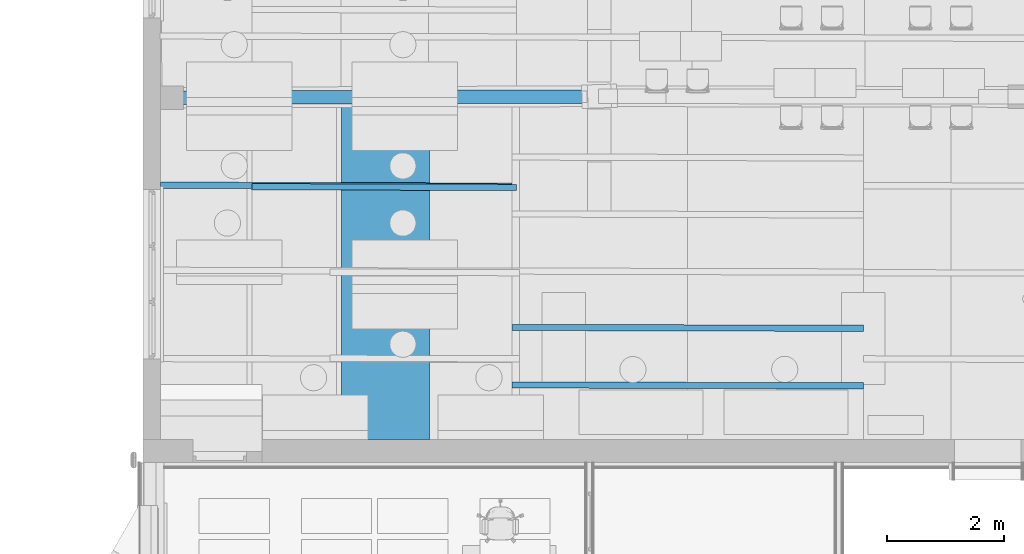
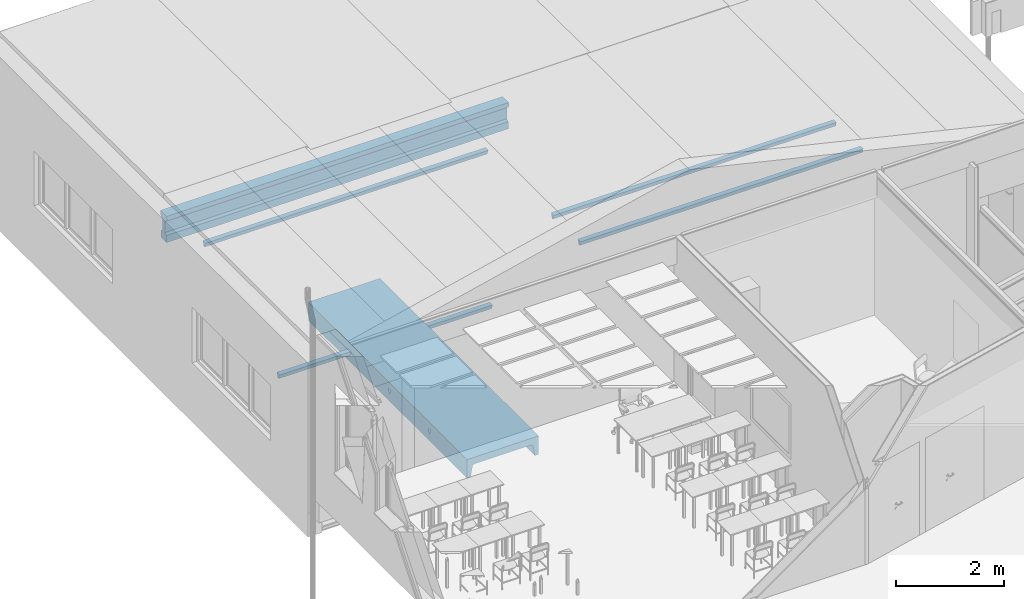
# One storey, part 16 of 153: 6 beams.
"""IFC2X3 building model written with IfcOpenShell, lengths in millimetres."""

import ifcopenshell
import ifcopenshell.guid

model = None  # the IFC model being written
_history = None  # IfcOwnerHistory: only IFC2X3 demands one
_inside = {}  # id of a spatial element -> (the spatial element, [elements in it])
_under = {}  # id of a project, library or spatial element -> (it, [spatial elements below it])
_declared = {}  # id of a project -> (the project, [libraries it declares])
_typed = {}  # id of a type object -> (the type object, [elements of that type])
_made_of = {}  # id of a material, layer set ... -> (it, [elements and type objects made of it])


def new_model(schema):
    """Start an empty IFC model of exactly this schema.

    Asked for "IFC4X3", IfcOpenShell would pick the latest addendum, in which some entities
    have other attributes; the version numbers below select the first issue.
    IFC2X3 requires an IfcOwnerHistory on every rooted entity: one is made here for all.
    """
    global model, _history
    if schema == "IFC4X3":
        model = ifcopenshell.file(schema_version=(4, 3, 0, 0))
    else:
        model = ifcopenshell.file(schema=schema)
    _inside.clear()
    _under.clear()
    _declared.clear()
    _typed.clear()
    _made_of.clear()
    _history = None
    if model.schema == "IFC2X3":
        org = make("IfcOrganization", Name="unknown")
        user = make(
            "IfcPersonAndOrganization",
            ThePerson=make("IfcPerson", FamilyName="unknown"),
            TheOrganization=org,
        )
        app = make(
            "IfcApplication",
            ApplicationDeveloper=org,
            Version="unknown",
            ApplicationFullName="unknown",
            ApplicationIdentifier="unknown",
        )
        _history = make(
            "IfcOwnerHistory",
            OwningUser=user,
            OwningApplication=app,
            ChangeAction="ADDED",
            CreationDate=0,
        )
    return model


def make(cls, **values):
    """One entity of the class cls with the attributes given. An attribute that is None is left unset."""
    return model.create_entity(
        cls, **{name: value for name, value in values.items() if value is not None}
    )


def entity(cls, *values):
    """Any entity or typed value of the class cls, its attributes in the order of the schema. None: left unset."""
    e = model.create_entity(cls)
    for i, value in enumerate(values):
        if value is not None:
            e[i] = value
    return e


def rooted(cls, **values):
    """An entity with a GlobalId (a new one), such as an element, a storey or a relation."""
    return make(cls, GlobalId=ifcopenshell.guid.new(), OwnerHistory=_history, **values)


def si_unit(unit_type, name, prefix=None):
    """IfcSIUnit, for example si_unit("LENGTHUNIT", "METRE", prefix="MILLI")."""
    return make("IfcSIUnit", UnitType=unit_type, Prefix=prefix, Name=name)


def converted_unit(unit_type, name, factor, base, dimensions=None, offset=None):
    """IfcConversionBasedUnit, such as the inch: factor (a typed value) times the base unit."""
    return make(
        "IfcConversionBasedUnit"
        if offset is None
        else "IfcConversionBasedUnitWithOffset",
        ConversionOffset=offset,
        Dimensions=None
        if dimensions is None
        else entity("IfcDimensionalExponents", *dimensions),
        UnitType=unit_type,
        Name=name,
        ConversionFactor=make(
            "IfcMeasureWithUnit", ValueComponent=factor, UnitComponent=base
        ),
    )


def derived_unit(unit_type, elements):
    """IfcDerivedUnit: a product of units, each with its exponent."""
    return make(
        "IfcDerivedUnit",
        Elements=[
            make("IfcDerivedUnitElement", Unit=unit, Exponent=power)
            for unit, power in elements
        ],
        UnitType=unit_type,
    )


def money_unit(currency):
    """IfcMonetaryUnit."""
    return make("IfcMonetaryUnit", Currency=currency)


def assignment(units):
    """IfcUnitAssignment: the units of a project."""
    return None if units is None else make("IfcUnitAssignment", Units=units)


def point(xyz):
    """IfcCartesianPoint."""
    return None if xyz is None else make("IfcCartesianPoint", Coordinates=xyz)


def direction(xyz):
    """IfcDirection."""
    return None if xyz is None else make("IfcDirection", DirectionRatios=xyz)


def frame(location, z_axis=None, x_axis=None):
    """IfcAxis2Placement3D, a coordinate frame: its origin and axes. An axis left out is left unset."""
    return make(
        "IfcAxis2Placement3D",
        Location=point(location),
        Axis=direction(z_axis),
        RefDirection=direction(x_axis),
    )


def origin_with_axes():
    """The frame at (0, 0, 0) with the z axis (0, 0, 1) and the x axis (1, 0, 0) written out."""
    return frame((0.0, 0.0, 0.0), z_axis=(0.0, 0.0, 1.0), x_axis=(1.0, 0.0, 0.0))


def place(relative_to, where):
    """IfcLocalPlacement: puts the frame where relative to a parent placement (None: the world)."""
    return make(
        "IfcLocalPlacement", PlacementRelTo=relative_to, RelativePlacement=where
    )


def context(
    kind, dimensions, precision=None, world=None, true_north=None, identifier=None
):
    """IfcGeometricRepresentationContext, for example the 3D "Model" context."""
    return make(
        "IfcGeometricRepresentationContext",
        ContextIdentifier=identifier,
        ContextType=kind,
        CoordinateSpaceDimension=dimensions,
        Precision=precision,
        WorldCoordinateSystem=world,
        TrueNorth=true_north,
    )


def subcontext(parent, identifier, kind, view, scale=None):
    """IfcGeometricRepresentationSubContext, for example "Body" below "Model"."""
    return make(
        "IfcGeometricRepresentationSubContext",
        ContextIdentifier=identifier,
        ContextType=kind,
        ParentContext=parent,
        TargetScale=scale,
        TargetView=view,
    )


def project(units=None, contexts=None):
    """IfcProject with its units and contexts."""
    return rooted(
        "IfcProject",
        Name="project",
        RepresentationContexts=contexts,
        UnitsInContext=assignment(units),
    )


def spatial(cls, under=None, at=None, **own):
    """A site, building, storey or space (cls), placed at a placement, below another one or the project."""
    s = rooted(cls, ObjectPlacement=at, **own)
    if under is not None:
        _under.setdefault(under.id(), (under, []))[1].append(s)
    return s


def faces_of(points, faces, orient=None, outer=None):
    """IfcFace entities. A face is a list of loops; a loop is a list of indices into points, from 0.

    orient and outer hold one flag for each loop. By default every Orientation is true, the
    first loop of a face is its IfcFaceOuterBound and the others are IfcFaceBound.
    """
    made = []
    for i, loops in enumerate(faces):
        bounds = []
        for j, loop in enumerate(loops):
            is_outer = j == 0 if outer is None else outer[i][j]
            bounds.append(
                make(
                    "IfcFaceOuterBound" if is_outer else "IfcFaceBound",
                    Bound=make("IfcPolyLoop", Polygon=[points[k] for k in loop]),
                    Orientation=True if orient is None else orient[i][j],
                )
            )
        made.append(make("IfcFace", Bounds=bounds))
    return made


def faceted_brep(points, faces, orient=None, outer=None, voids=None):
    """IfcFacetedBrep: a solid bounded by flat faces; with voids (closed shells), ...WithVoids."""
    shared = [point(p) for p in points]
    hull = make("IfcClosedShell", CfsFaces=faces_of(shared, faces, orient, outer))
    if voids is None:
        return make("IfcFacetedBrep", Outer=hull)
    return make(
        "IfcFacetedBrepWithVoids",
        Outer=hull,
        Voids=[
            make(cls, CfsFaces=faces_of(shared, fs, o, b)) for cls, fs, o, b in voids
        ],
    )


def shape(context_of_items, identifier, shape_type, items):
    """IfcShapeRepresentation: the items that make up one representation, for example the "Body"."""
    return make(
        "IfcShapeRepresentation",
        ContextOfItems=context_of_items,
        RepresentationIdentifier=identifier,
        RepresentationType=shape_type,
        Items=items,
    )


def material(Name=None, Category=None):
    """IfcMaterial."""
    return make("IfcMaterial", Name=Name, Category=Category)


def made_of(thing, what):
    """Note that an element or type object is made of a material, layer set ...; save() writes the relation."""
    if what is not None:
        _made_of.setdefault(what.id(), (what, []))[1].append(thing)
    return thing


def type_object(cls, material=None, **own):
    """A type object (cls), such as IfcWallType, which elements share."""
    return made_of(rooted(cls, **own), material)


def element(
    cls,
    number,
    at=None,
    inside=None,
    cuts=None,
    type_object=None,
    material=None,
    context=None,
    identifier="Body",
    shape_type=None,
    held_by="IfcProductDefinitionShape",
    body=None,
    shapes=None,
    **own,
):
    """One element of the class cls, such as IfcWall. Its Tag is "e" and its number.

    at: its placement. inside: the storey or other place that contains it. cuts: it is an
    opening in that element (IfcRelVoidsElement). A single representation is given by context,
    identifier, shape_type and body (its items); several are given by shapes. held_by: the class
    of the entity that holds the representations. save() writes the other relations.
    """
    e = rooted(cls, Tag="e%d" % number, ObjectPlacement=at, **own)
    if body is not None:
        shapes = [shape(context, identifier, shape_type, body)]
    if shapes is not None:
        e.Representation = make(held_by, Representations=shapes)
    if inside is not None:
        _inside.setdefault(inside.id(), (inside, []))[1].append(e)
    if cuts is not None:
        rooted(
            "IfcRelVoidsElement", RelatingBuildingElement=cuts, RelatedOpeningElement=e
        )
    if type_object is not None:
        _typed.setdefault(type_object.id(), (type_object, []))[1].append(e)
    return made_of(e, material)


def aggregate(whole, parts):
    """IfcRelAggregates: a whole, such as a stair, and the parts it consists of."""
    return rooted("IfcRelAggregates", RelatingObject=whole, RelatedObjects=parts)


def save(model, path):
    """Write the relations noted so far, then the file.

    IfcRelAggregates (storeys below a building ...), IfcRelContainedInSpatialStructure (elements
    in a storey), IfcRelDefinesByType, IfcRelAssociatesMaterial and IfcRelDeclares: one each for
    every whole, place, type object, material and project.
    """
    for whole, parts in _under.values():
        aggregate(whole, parts)
    for where, things in _inside.values():
        rooted(
            "IfcRelContainedInSpatialStructure",
            RelatedElements=things,
            RelatingStructure=where,
        )
    for kind, things in _typed.values():
        rooted("IfcRelDefinesByType", RelatedObjects=things, RelatingType=kind)
    for what, things in _made_of.values():
        rooted("IfcRelAssociatesMaterial", RelatedObjects=things, RelatingMaterial=what)
    for by, libraries in _declared.values():
        rooted("IfcRelDeclares", RelatingContext=by, RelatedDefinitions=libraries)
    model.write(path)


model = new_model("IFC2X3")

# Units and contexts
model_context = context("Model", 3, precision=0.01, world=origin_with_axes(), true_north=direction((0.0, 1.0)))
body_context = subcontext(model_context, "Body", "Model", "MODEL_VIEW")
ifc_project = project(units=[si_unit("LENGTHUNIT", "METRE", prefix="MILLI"), si_unit("AREAUNIT", "SQUARE_METRE"), si_unit("VOLUMEUNIT", "CUBIC_METRE"), converted_unit("PLANEANGLEUNIT", "DEGREE", entity("IfcPlaneAngleMeasure", 0.0174532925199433), si_unit("PLANEANGLEUNIT", "RADIAN"), dimensions=[0, 0, 0, 0, 0, 0, 0]), money_unit("EUR"), converted_unit("TIMEUNIT", "Year", entity("IfcTimeMeasure", 31557600.0), si_unit("TIMEUNIT", "SECOND"), dimensions=[0, 0, 1, 0, 0, 0, 0]), si_unit("MASSUNIT", "GRAM", prefix="KILO"), si_unit("THERMODYNAMICTEMPERATUREUNIT", "DEGREE_CELSIUS"), si_unit("LUMINOUSINTENSITYUNIT", "LUMEN"), si_unit("ENERGYUNIT", "JOULE", prefix="MEGA"), derived_unit("THERMALCONDUCTANCEUNIT", [(si_unit("POWERUNIT", "WATT"), 1), (si_unit("LENGTHUNIT", "METRE"), -1), (si_unit("THERMODYNAMICTEMPERATUREUNIT", "KELVIN"), -1)]), derived_unit("SPECIFICHEATCAPACITYUNIT", [(si_unit("ENERGYUNIT", "JOULE"), 1), (si_unit("MASSUNIT", "GRAM", prefix="KILO"), -1), (si_unit("THERMODYNAMICTEMPERATUREUNIT", "KELVIN"), -1)]), derived_unit("MASSDENSITYUNIT", [(si_unit("MASSUNIT", "GRAM", prefix="KILO"), 1), (si_unit("VOLUMEUNIT", "CUBIC_METRE"), -1)])], contexts=[model_context])

# Site, building, storey
site_placement = place(None, frame((0.0, 0.0, 8650.0), z_axis=(0.0, 0.0, 1.0), x_axis=(1.0, 0.0, 0.0)))
site = spatial("IfcSite", under=ifc_project, at=site_placement, Name="43301:001:0844", CompositionType="ELEMENT")
building_placement = place(site_placement, origin_with_axes())
building = spatial("IfcBuilding", under=site, at=building_placement, Name="Kuressaare Ametikooli tuulikute mehaanikute õppekorpus", CompositionType="ELEMENT")
storey_placement = place(building_placement, frame((0.0, 0.0, 4100.0), z_axis=(0.0, 0.0, 1.0), x_axis=(1.0, 0.0, 0.0)))
storey = spatial("IfcBuildingStorey", under=building, at=storey_placement, Name="2.korrus", CompositionType="ELEMENT", Elevation=4100.0)

# Beams
ifc_material_1 = material(Name="GENEERILINE - KONSTRUKTRIOON")
beam_type_1 = type_object("IfcBeamType", Name="Precast Single Tee 2 107 x 102", PredefinedType="NOTDEFINED")
beam_1_placement = place(storey_placement, frame((88258.75644683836, 30529.76046469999, 2805.133663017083), z_axis=(0.0, 0.0, 1.0), x_axis=(-0.002672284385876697, -0.9999964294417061, 0.0)))
element("IfcBeam", 1, at=beam_1_placement, inside=storey, type_object=beam_type_1, material=ifc_material_1, context=body_context, shape_type="Brep", body=[
    faceted_brep([(45.31502884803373, 0.0, -5.574334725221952), (45.31502884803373, 6007.142755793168, -5.574334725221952), (53.51387546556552, 6007.142755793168, 0.0), (53.51387546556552, 0.0, 0.0), (40.74041549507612, 0.0, -14.37019773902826), (40.74041549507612, 6007.142755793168, -14.37019773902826), (20.00045776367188, 6007.142755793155, -101.9474782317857), (-19.99954223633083, 6007.142755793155, -101.9474782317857), (-40.74046173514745, 6007.142755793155, -14.37000248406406), (-45.31509550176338, 6007.142755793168, -5.574259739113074), (-53.51387546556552, 6007.142755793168, 0.0), (-53.51387546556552, 0.0, 0.0), (-45.31509550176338, 0.0, -5.574259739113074), (-40.74046173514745, 0.0, -14.37000248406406), (-19.99954223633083, 0.0, -101.9474782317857), (20.00045776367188, 0.0, -101.9474782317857)], [[[0, 1, 2, 3]], [[4, 5, 1, 0]], [[2, 1, 5, 6, 7, 8, 9, 10]], [[3, 2, 10, 11]], [[4, 0, 3, 11, 12, 13, 14, 15]], [[15, 6, 5, 4]], [[14, 7, 6, 15]], [[13, 8, 7, 14]], [[12, 9, 8, 13]], [[11, 10, 9, 12]]]),
])
beam_2_placement = place(storey_placement, frame((94265.87775377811, 28097.22423198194, 2805.133663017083), z_axis=(0.0, 0.0, 1.0), x_axis=(-0.002672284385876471, -0.9999964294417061, 0.0)))
element("IfcBeam", 2, at=beam_2_placement, inside=storey, type_object=beam_type_1, material=ifc_material_1, context=body_context, shape_type="Brep", body=[
    faceted_brep([(45.31502884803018, 0.0, -5.574334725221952), (45.31502884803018, 6011.655918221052, -5.574334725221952), (53.51387546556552, 6011.655918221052, 0.0), (53.51387546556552, 0.0, 0.0), (40.74041549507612, 0.0, -14.37019773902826), (40.74041549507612, 6011.655918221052, -14.37019773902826), (20.00045776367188, 6011.655918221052, -101.9474782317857), (-19.99954223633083, 6011.655918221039, -101.9474782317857), (-40.74046173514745, 6011.655918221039, -14.37000248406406), (-45.31509550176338, 6011.655918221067, -5.574259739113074), (-53.51387546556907, 6011.655918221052, 0.0), (-53.51387546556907, 0.0, 0.0), (-45.31509550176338, 0.0, -5.574259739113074), (-40.74046173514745, 0.0, -14.37000248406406), (-19.99954223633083, 0.0, -101.9474782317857), (20.00045776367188, 0.0, -101.9474782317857)], [[[0, 1, 2, 3]], [[4, 5, 1, 0]], [[2, 1, 5, 6, 7, 8, 9, 10]], [[3, 2, 10, 11]], [[4, 0, 3, 11, 12, 13, 14, 15]], [[15, 6, 5, 4]], [[14, 7, 6, 15]], [[13, 8, 7, 14]], [[12, 9, 8, 13]], [[11, 10, 9, 12]]]),
])
beam_3_placement = place(storey_placement, frame((94265.87775377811, 27114.02638859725, 2805.133663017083), z_axis=(0.0, 0.0, 1.0), x_axis=(-0.002672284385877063, -0.9999964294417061, 0.0)))
element("IfcBeam", 3, at=beam_3_placement, inside=storey, type_object=beam_type_1, material=ifc_material_1, context=body_context, shape_type="Brep", body=[
    faceted_brep([(45.31502884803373, 0.0, -5.574334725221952), (45.31502884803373, 6011.655918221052, -5.574334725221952), (53.51387546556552, 6011.655918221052, 0.0), (53.51387546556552, 0.0, 0.0), (40.74041549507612, 0.0, -14.37019773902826), (40.74041549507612, 6011.655918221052, -14.37019773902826), (20.00045776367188, 6011.655918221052, -101.9474782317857), (-19.99954223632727, 6011.655918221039, -101.9474782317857), (-40.7404617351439, 6011.655918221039, -14.37000248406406), (-45.31509550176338, 6011.655918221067, -5.574259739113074), (-53.51387546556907, 6011.655918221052, 0.0), (-53.51387546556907, 0.0, 0.0), (-45.31509550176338, 0.0, -5.574259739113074), (-40.7404617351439, 0.0, -14.37000248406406), (-19.99954223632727, 0.0, -101.9474782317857), (20.00045776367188, 0.0, -101.9474782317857)], [[[0, 1, 2, 3]], [[4, 5, 1, 0]], [[2, 1, 5, 6, 7, 8, 9, 10]], [[3, 2, 10, 11]], [[4, 0, 3, 11, 12, 13, 14, 15]], [[15, 6, 5, 4]], [[14, 7, 6, 15]], [[13, 8, 7, 14]], [[12, 9, 8, 13]], [[11, 10, 9, 12]]]),
])
beam_4_placement = place(storey_placement, frame((89817.75241851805, 30503.20753745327, -689.9999999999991), z_axis=(0.0, 0.0, 1.0), x_axis=(-0.002672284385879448, -0.9999964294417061, 0.0)))
element("IfcBeam", 4, at=beam_4_placement, inside=storey, type_object=beam_type_1, material=ifc_material_1, context=body_context, shape_type="Brep", body=[
    faceted_brep([(45.31502884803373, 0.0, -5.574334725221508), (45.31502884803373, 4530.016174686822, -5.574334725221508), (53.51387546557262, 4530.016174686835, 0.0), (53.51387546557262, 0.0, 0.0), (40.74041549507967, 0.0, -14.37019773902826), (40.74041549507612, 4530.016174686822, -14.37019773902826), (20.00045776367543, 4530.016174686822, -101.9474782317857), (-19.99954223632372, 4530.016174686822, -101.9474782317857), (-40.74046173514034, 4530.016174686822, -14.3700024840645), (-45.31509550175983, 4530.016174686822, -5.574259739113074), (-53.51387546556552, 4530.016174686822, 0.0), (-53.51387546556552, 0.0, 0.0), (-45.31509550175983, 0.0, -5.574259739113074), (-40.74046173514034, 0.0, -14.3700024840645), (-19.99954223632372, 0.0, -101.9474782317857), (20.00045776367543, 0.0, -101.9474782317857)], [[[0, 1, 2, 3]], [[4, 5, 1, 0]], [[2, 1, 5, 6, 7, 8, 9, 10]], [[3, 2, 10, 11]], [[4, 0, 3, 11, 12, 13, 14, 15]], [[15, 6, 5, 4]], [[14, 7, 6, 15]], [[13, 8, 7, 14]], [[12, 9, 8, 13]], [[11, 10, 9, 12]]]),
])
ifc_material_2 = material(Name="Betoon - Monteeritav")
beam_type_2 = type_object("IfcBeamType", Name="Precast Girder 01 230 x 600", PredefinedType="NOTDEFINED")
beam_5_placement = place(storey_placement, frame((95547.90111654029, 32044.05243238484, 2540.000000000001), z_axis=(0.0, 0.0, 1.0), x_axis=(-0.002750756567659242, 0.9999962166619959, 0.0)))
element("IfcBeam", 5, at=beam_5_placement, inside=storey, type_object=beam_type_2, material=ifc_material_2, context=body_context, shape_type="Brep", body=[
    faceted_brep([(100.0000000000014, 0.0, -600.0011704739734), (99.99999999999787, 7289.172247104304, -600.0011704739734), (99.99999999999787, 7289.172247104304, -440.0011704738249), (100.0000000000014, 0.0, -440.0011704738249), (-100.0000000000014, 0.0, -600.0011704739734), (-100.0000000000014, 7289.172247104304, -600.0011704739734), (-100.0000000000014, 7289.172247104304, -440.0011704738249), (-45.00000000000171, 7289.172247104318, -403.3345038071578), (-45.00000000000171, 7289.172247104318, -160.0000000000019), (-114.9999999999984, 7289.172247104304, -99.99999999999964), (-114.9999999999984, 7289.172247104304, 0.0), (114.9999999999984, 7289.172247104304, 0.0), (114.9999999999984, 7289.172247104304, -99.99999999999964), (45.00000000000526, 7289.172247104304, -160.000000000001), (45.00000000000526, 7289.172247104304, -403.3345038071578), (45.00000000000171, 0.0, -403.3345038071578), (45.00000000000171, 0.0, -160.000000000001), (115.0000000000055, 0.0, -99.99999999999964), (115.0000000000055, 0.0, 0.0), (-115.000000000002, 0.0, 0.0), (-115.000000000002, 0.0, -99.99999999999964), (-44.99999999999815, 0.0, -160.0000000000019), (-44.99999999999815, 0.0, -403.3345038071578), (-100.0000000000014, 0.0, -440.0011704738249)], [[[0, 1, 2, 3]], [[4, 5, 1, 0]], [[2, 1, 5, 6, 7, 8, 9, 10, 11, 12, 13, 14]], [[3, 2, 14, 15]], [[4, 0, 3, 15, 16, 17, 18, 19, 20, 21, 22, 23]], [[23, 6, 5, 4]], [[22, 7, 6, 23]], [[21, 8, 7, 22]], [[20, 9, 8, 21]], [[19, 10, 9, 20]], [[18, 11, 10, 19]], [[17, 12, 11, 18]], [[16, 13, 12, 17]], [[15, 14, 13, 16]]]),
])
beam_type_3 = type_object("IfcBeamType", Name="Precast Double Tee 3 1525 x 415", PredefinedType="NOTDEFINED")
beam_6_placement = place(storey_placement, frame((92105.25241851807, 32034.33665916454, -539.9999999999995), z_axis=(0.0, 0.0, 1.0), x_axis=(-1.0, 0.0, 0.0)))
element("IfcBeam", 6, at=beam_6_placement, inside=storey, type_object=beam_type_3, material=ifc_material_1, context=body_context, shape_type="Brep", body=[
    faceted_brep([(762.5000000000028, 5851.267735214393, -415.0001340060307), (762.5000000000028, 5851.267735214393, 0.0), (762.5000000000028, 0.0, 0.0), (762.5000000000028, 0.0, -415.0001340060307), (762.5000000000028, 4506.093196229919, -164.3701977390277), (762.5000000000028, 4485.353164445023, -251.9474782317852), (762.5000000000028, 4445.353021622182, -251.9474782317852), (762.5000000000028, 4424.612028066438, -164.370002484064), (762.5000000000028, 4420.037377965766, -155.5742597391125), (762.5000000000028, 4411.838568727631, -149.9999999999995), (762.5000000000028, 4518.866701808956, -149.9999999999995), (762.5000000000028, 4510.667825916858, -155.574334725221), (762.5000000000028, 3012.866447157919, -251.9474782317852), (762.5000000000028, 2972.866304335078, -251.9474782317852), (762.5000000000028, 2952.125310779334, -164.370002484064), (762.5000000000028, 2947.550660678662, -155.5742597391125), (762.5000000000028, 2939.351851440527, -149.9999999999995), (762.5000000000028, 3046.379984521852, -149.9999999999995), (762.5000000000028, 3038.181108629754, -155.574334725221), (762.5000000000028, 3033.606478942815, -164.3701977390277), (762.5000000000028, 1515.204756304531, -251.9474782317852), (762.5000000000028, 1494.463762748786, -164.370002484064), (762.5000000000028, 1489.889112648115, -155.5742597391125), (762.5000000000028, 1481.690303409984, -149.9999999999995), (762.5000000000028, 1588.718436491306, -149.9999999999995), (762.5000000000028, 1580.519560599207, -155.574334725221), (762.5000000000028, 1575.944930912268, -164.3701977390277), (762.5000000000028, 1555.204899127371, -251.9474782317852), (-630.3742921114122, 5851.267735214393, -164.5802967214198), (-642.2018747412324, 5851.267735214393, -180.3584478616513), (-647.7450826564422, 5851.267735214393, -199.2823642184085), (-682.2510280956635, 5851.267735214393, -415.0001340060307), (-762.5000000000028, 5851.267735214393, -415.0001340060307), (-762.5000000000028, 5851.267735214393, 0.0), (686.7096088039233, 5851.267735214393, -415.0001340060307), (644.8621749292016, 5851.267735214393, -188.8133237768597), (639.0698943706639, 5851.267735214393, -173.3049793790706), (628.3234422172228, 5851.267735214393, -160.712401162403), (613.9186038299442, 5851.267735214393, -152.5539766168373), (597.5922853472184, 5851.267735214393, -149.8134319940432), (596.1468073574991, 5851.267735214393, -149.8234995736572), (-594.4825828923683, 5851.267735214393, -149.8234995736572), (-613.7646293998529, 5851.267735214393, -153.9519916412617), (-762.5000000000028, 0.0, 0.0), (686.7096088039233, 0.0, -415.0001340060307), (-762.5000000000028, 0.0, -415.0001340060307), (-682.2510280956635, 0.0, -415.0001340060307), (-647.7450826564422, 0.0, -199.2823642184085), (-642.2018747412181, 0.0, -180.3584478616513), (-630.3742921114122, 0.0, -164.5802967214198), (-613.7646293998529, 0.0, -153.9519916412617), (-594.4825828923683, 0.0, -149.8234995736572), (596.1468073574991, 0.0, -149.8234995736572), (597.5922853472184, 0.0, -149.8134319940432), (613.9186038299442, 0.0, -152.5539766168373), (628.3234422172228, 0.0, -160.712401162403), (639.0698943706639, 0.0, -173.3049793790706), (644.8621749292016, 0.0, -188.8133237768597), (656.5427957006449, 4485.636313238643, -251.9474782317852), (631.4449901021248, 4506.443413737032, -164.3701977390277), (639.0698943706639, 4504.307104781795, -173.3049793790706), (644.8621749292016, 4500.618943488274, -188.8133237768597), (656.5427957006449, 4445.636170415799, -251.9474782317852), (644.8621749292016, 4430.715308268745, -188.8133237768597), (639.0698943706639, 4427.057942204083, -173.3049793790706), (631.4448234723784, 4424.962246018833, -164.370002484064), (628.3234422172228, 4423.068275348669, -160.712401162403), (619.2513356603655, 4420.420180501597, -155.5742597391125), (613.9186038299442, 4415.992096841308, -152.5539766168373), (598.7037318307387, 4412.276280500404, -149.9999999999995), (598.7037318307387, 4519.304413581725, -149.9999999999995), (619.2514680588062, 4511.050628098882, -155.574334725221), (613.9186038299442, 4515.507300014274, -152.5539766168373), (628.3234422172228, 4508.354134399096, -160.712401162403), (656.5427957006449, 3013.149595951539, -251.9474782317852), (656.5427957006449, 2973.149453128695, -251.9474782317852), (644.8621749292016, 2958.228590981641, -188.8133237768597), (639.0698943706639, 2954.571224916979, -173.3049793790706), (631.4448234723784, 2952.475528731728, -164.370002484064), (628.3234422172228, 2950.581558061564, -160.712401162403), (619.2513356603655, 2947.933463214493, -155.5742597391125), (613.9186038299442, 2943.505379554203, -152.5539766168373), (598.7037318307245, 2939.7895632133, -149.9999999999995), (598.7037318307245, 3046.817696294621, -149.9999999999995), (613.9186038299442, 3043.02058272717, -152.5539766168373), (619.2514680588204, 3038.563910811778, -155.574334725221), (628.3234422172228, 3035.867417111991, -160.712401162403), (631.4449901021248, 3033.956696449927, -164.3701977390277), (639.0698943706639, 3031.82038749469, -173.3049793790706), (644.8621749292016, 3028.132226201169, -188.8133237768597), (644.8621749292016, 1500.567042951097, -188.8133237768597), (639.0698943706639, 1496.909676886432, -173.3049793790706), (631.4448234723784, 1494.813980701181, -164.370002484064), (656.5427957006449, 1515.487905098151, -251.9474782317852), (628.3234422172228, 1492.920010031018, -160.712401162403), (619.2513356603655, 1490.271915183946, -155.5742597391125), (613.9186038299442, 1485.84383152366, -152.5539766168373), (598.7037318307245, 1482.128015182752, -149.9999999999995), (598.7037318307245, 1589.156148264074, -149.9999999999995), (613.9186038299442, 1585.359034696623, -152.5539766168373), (619.2514680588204, 1580.902362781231, -155.574334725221), (628.3234422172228, 1578.205869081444, -160.712401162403), (631.4449901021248, 1576.295148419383, -164.3701977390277), (639.0698943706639, 1574.158839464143, -173.3049793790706), (644.8621749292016, 1570.470678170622, -188.8133237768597), (656.5427957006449, 1555.488047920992, -251.9474782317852), (-642.2018747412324, 4506.060638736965, -180.3584478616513), (-630.3742921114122, 4509.765610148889, -164.5802967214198), (-647.7450826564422, 4501.593894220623, -199.2823642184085), (-647.7450826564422, 2964.162202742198, -199.2823642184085), (-647.7450826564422, 1571.445628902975, -199.2823642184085), (-656.169328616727, 1558.996000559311, -251.9474782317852), (-656.169328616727, 1518.995857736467, -251.9474782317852), (-647.7450826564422, 1506.500654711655, -199.2823642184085), (-656.1693286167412, 4489.144265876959, -251.9474782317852), (-656.1693286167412, 4449.144123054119, -251.9474782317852), (-647.7450826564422, 4436.648920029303, -199.2823642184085), (-647.7450826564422, 3029.107176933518, -199.2823642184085), (-656.169328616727, 3016.657548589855, -251.9474782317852), (-656.169328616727, 2976.657405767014, -251.9474782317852), (-762.5000000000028, 4449.428269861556, -251.9474782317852), (-762.5000000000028, 4489.4284126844, -251.9474782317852), (-762.5000000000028, 4510.168444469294, -164.3701977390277), (-762.5000000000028, 4514.743074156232, -155.574334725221), (-762.5000000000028, 4522.941950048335, -149.9999999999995), (-762.5000000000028, 4415.91381696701, -149.9999999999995), (-762.5000000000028, 4424.11262620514, -155.5742597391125), (-762.5000000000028, 4428.687276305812, -164.370002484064), (-762.5000000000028, 3016.941695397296, -251.9474782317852), (-762.5000000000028, 3037.681727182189, -164.3701977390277), (-762.5000000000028, 3042.256356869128, -155.574334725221), (-762.5000000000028, 3050.45523276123, -149.9999999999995), (-762.5000000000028, 2943.427099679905, -149.9999999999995), (-762.5000000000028, 2951.625908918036, -155.5742597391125), (-762.5000000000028, 2956.200559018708, -164.370002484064), (-762.5000000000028, 2976.941552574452, -251.9474782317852), (-762.5000000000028, 1580.020179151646, -164.3701977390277), (-762.5000000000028, 1584.594808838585, -155.574334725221), (-762.5000000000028, 1592.793684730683, -149.9999999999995), (-762.5000000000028, 1485.765551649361, -149.9999999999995), (-762.5000000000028, 1493.964360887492, -155.5742597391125), (-762.5000000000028, 1498.539010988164, -164.370002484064), (-762.5000000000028, 1519.280004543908, -251.9474782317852), (-762.5000000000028, 1559.280147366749, -251.9474782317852), (-595.3069248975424, 1485.318762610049, -149.9999999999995), (-595.3069248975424, 1592.346895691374, -149.9999999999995), (-613.7646293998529, 1586.583528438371, -153.9519916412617), (-613.7646293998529, 2948.842357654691, -153.9519916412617), (-595.3069248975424, 2942.980310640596, -149.9999999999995), (-595.3069248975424, 3050.008443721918, -149.9999999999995), (-613.7646293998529, 3044.245076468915, -153.9519916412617), (-613.7646293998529, 4421.329074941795, -153.9519916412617), (-595.3069248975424, 4415.467027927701, -149.9999999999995), (-595.3069248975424, 4522.495161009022, -149.9999999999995), (-613.7646293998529, 4516.731793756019, -153.9519916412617), (-613.7646293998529, 1491.180809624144, -153.9519916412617), (-616.2999886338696, 4514.352384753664, -155.574334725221), (-630.0459544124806, 4509.814488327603, -164.3701977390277), (-642.2018747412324, 1502.004086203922, -180.3584478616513), (-630.3742921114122, 1498.235736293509, -164.5802967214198), (-630.0456492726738, 1498.185054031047, -164.370002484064), (-616.2998714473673, 1493.573671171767, -155.5742597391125), (-642.2018747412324, 2959.665634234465, -180.3584478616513), (-642.2018747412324, 1575.912373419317, -180.3584478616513), (-630.0459544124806, 1579.666223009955, -164.3701977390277), (-630.3742921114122, 1579.617344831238, -164.5802967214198), (-642.2018747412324, 4432.152351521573, -180.3584478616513), (-630.0456492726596, 4428.333319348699, -164.370002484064), (-630.3742921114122, 4428.384001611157, -164.5802967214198), (-642.2018747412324, 3033.573921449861, -180.3584478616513), (-630.3742921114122, 3037.278892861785, -164.5802967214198), (-630.0459544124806, 3037.327771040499, -164.3701977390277), (-630.0456492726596, 2955.846602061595, -164.370002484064), (-630.3742921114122, 2955.897284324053, -164.5802967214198), (-616.2998714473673, 4423.721936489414, -155.5742597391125), (-616.2999886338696, 3041.86566746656, -155.574334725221), (-616.2998714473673, 2951.23521920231, -155.5742597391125), (-616.2999886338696, 1584.204119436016, -155.574334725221)], [[[0, 1, 2, 3], [4, 5, 6, 7, 8, 9, 10, 11], [12, 13, 14, 15, 16, 17, 18, 19], [20, 21, 22, 23, 24, 25, 26, 27]], [[28, 29, 30, 31, 32, 33, 1, 0, 34, 35, 36, 37, 38, 39, 40, 41, 42]], [[1, 33, 43, 2]], [[44, 3, 2, 43, 45, 46, 47, 48, 49, 50, 51, 52, 53, 54, 55, 56, 57]], [[34, 0, 3, 44]], [[58, 5, 4, 59, 60, 61]], [[62, 6, 5, 58]], [[6, 62, 63, 64, 65, 7]], [[8, 7, 65, 66, 67]], [[9, 8, 67, 68, 69]], [[70, 10, 9, 69]], [[71, 11, 10, 70, 72]], [[59, 4, 11, 71, 73]], [[13, 12, 74, 75]], [[75, 76, 77, 78, 14, 13]], [[14, 78, 79, 80, 15]], [[15, 80, 81, 82, 16]], [[17, 16, 82, 83]], [[18, 17, 83, 84, 85]], [[19, 18, 85, 86, 87]], [[12, 19, 87, 88, 89, 74]], [[90, 91, 92, 21, 20, 93]], [[92, 94, 95, 22, 21]], [[95, 96, 97, 23, 22]], [[23, 97, 98, 24]], [[24, 98, 99, 100, 25]], [[25, 100, 101, 102, 26]], [[26, 102, 103, 104, 105, 27]], [[27, 105, 93, 20]], [[106, 29, 28, 107]], [[108, 30, 29, 106]], [[109, 110, 111, 112, 113, 47, 46, 31, 30, 108, 114, 115, 116, 117, 118, 119]], [[32, 31, 46, 45]], [[33, 32, 45, 43], [120, 121, 122, 123, 124, 125, 126, 127], [128, 129, 130, 131, 132, 133, 134, 135], [136, 137, 138, 139, 140, 141, 142, 143]], [[93, 105, 104, 76, 75, 74, 89, 63, 62, 58, 61, 35, 34, 44, 57, 90]], [[60, 36, 35, 61]], [[37, 36, 60, 59, 73]], [[38, 37, 73, 71, 72]], [[81, 99, 98, 97, 96, 54, 53, 39, 38, 72, 70, 69, 68, 84, 83, 82]], [[40, 39, 53, 52]], [[41, 40, 52, 51]], [[144, 145, 146, 147, 148, 149, 150, 151, 152, 153, 154, 42, 41, 51, 50, 155]], [[42, 154, 156, 157, 107, 28]], [[47, 113, 158, 48]], [[48, 158, 159, 49]], [[160, 161, 155, 50, 49, 159]], [[96, 95, 94, 55, 54]], [[94, 92, 91, 56, 55]], [[56, 91, 90, 57]], [[64, 63, 89, 88]], [[64, 88, 87, 86, 66, 65]], [[66, 86, 85, 84, 68, 67]], [[76, 104, 103, 77]], [[103, 102, 101, 79, 78, 77]], [[101, 100, 99, 81, 80, 79]], [[106, 107, 157, 122, 121, 114, 108]], [[162, 163, 110, 109]], [[164, 136, 143, 111, 110, 163, 165]], [[111, 143, 142, 112]], [[112, 142, 141, 160, 159, 158, 113]], [[120, 115, 114, 121]], [[166, 116, 115, 120, 127, 167, 168]], [[116, 166, 169, 117]], [[170, 171, 129, 128, 118, 117, 169]], [[119, 118, 128, 135]], [[109, 119, 135, 134, 172, 173, 162]], [[122, 157, 156, 123]], [[156, 154, 153, 124, 123]], [[124, 153, 152, 125]], [[152, 151, 174, 126, 125]], [[126, 174, 167, 127]], [[171, 175, 130, 129]], [[150, 149, 131, 130, 175]], [[149, 148, 132, 131]], [[147, 176, 133, 132, 148]], [[176, 172, 134, 133]], [[177, 137, 136, 164]], [[145, 138, 137, 177, 146]], [[144, 139, 138, 145]], [[161, 140, 139, 144, 155]], [[160, 141, 140, 161]], [[177, 164, 165, 173, 172, 176, 147, 146]], [[150, 175, 171, 170, 168, 167, 174, 151]], [[173, 165, 163, 162]], [[166, 168, 170, 169]]]),
])

save(model, "model.ifc")
